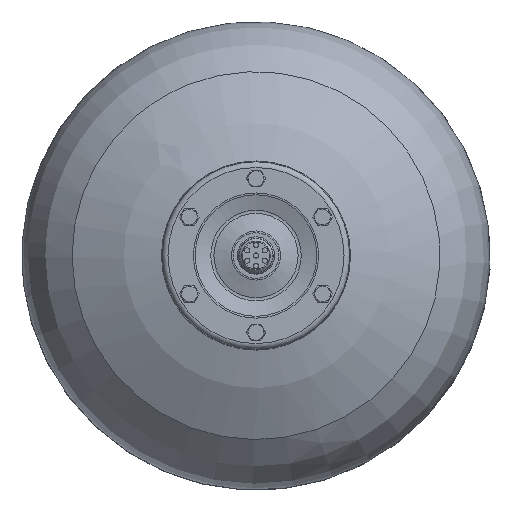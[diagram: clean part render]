
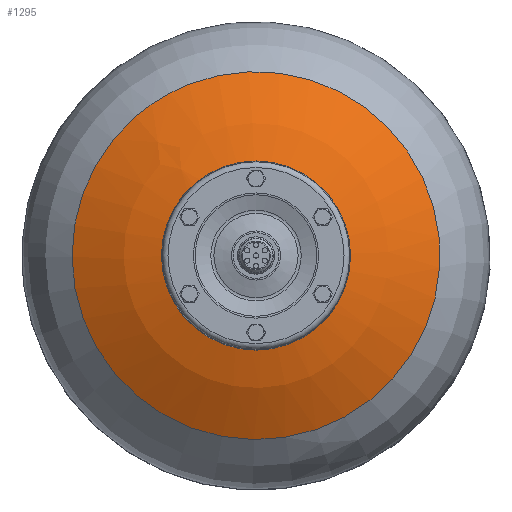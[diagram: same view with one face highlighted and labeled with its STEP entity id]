
A CAD part, top view. The second image highlights one B-rep face of the part: STEP entity #1295.
In plain terms, the highlighted spherical face has radius 280 mm.
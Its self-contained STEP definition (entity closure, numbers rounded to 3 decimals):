
#1295=ADVANCED_FACE('',(#2706,#2708),#2710,.T.);
#2706=FACE_BOUND('',#2707,.T.);
#2707=EDGE_LOOP('',(#3563,#3564,#3565));
#2708=FACE_BOUND('',#2709,.T.);
#2709=EDGE_LOOP('',(#3566,#3567,#3568));
#2710=SPHERICAL_SURFACE('',#2711,280.);
#2711=AXIS2_PLACEMENT_3D('',#2712,#2713,#2714);
#2712=CARTESIAN_POINT('',(0.,0.,-82.439));
#2713=DIRECTION('',(0.,0.,1.));
#2714=DIRECTION('',(1.,0.,0.));
#3563=ORIENTED_EDGE('',*,*,#4013,.T.);
#3564=ORIENTED_EDGE('',*,*,#4014,.T.);
#3565=ORIENTED_EDGE('',*,*,#4015,.T.);
#3566=ORIENTED_EDGE('',*,*,#4012,.F.);
#3567=ORIENTED_EDGE('',*,*,#4011,.F.);
#3568=ORIENTED_EDGE('',*,*,#4010,.F.);
#4010=EDGE_CURVE('',#4688,#4689,#4690,.T.);
#4011=EDGE_CURVE('',#4689,#4691,#4692,.T.);
#4012=EDGE_CURVE('',#4691,#4688,#4693,.T.);
#4013=EDGE_CURVE('',#4694,#4695,#4696,.T.);
#4014=EDGE_CURVE('',#4695,#4697,#4698,.T.);
#4015=EDGE_CURVE('',#4697,#4694,#4699,.T.);
#4688=VERTEX_POINT('',#7717);
#4689=VERTEX_POINT('',#7718);
#4690=CIRCLE('',#7719,143.5);
#4691=VERTEX_POINT('',#7723);
#4692=CIRCLE('',#7724,143.5);
#4693=CIRCLE('',#7728,143.5);
#4694=VERTEX_POINT('',#7732);
#4695=VERTEX_POINT('',#7733);
#4696=CIRCLE('',#7734,60.432);
#4697=VERTEX_POINT('',#7738);
#4698=CIRCLE('',#7739,60.432);
#4699=CIRCLE('',#7743,60.432);
#7717=CARTESIAN_POINT('',(46.931,-135.609,157.993));
#7718=CARTESIAN_POINT('',(-93.93,108.487,157.993));
#7719=AXIS2_PLACEMENT_3D('',#7720,#7721,#7722);
#7720=CARTESIAN_POINT('',(0.,0.,157.993));
#7721=DIRECTION('',(0.,0.,-1.));
#7722=DIRECTION('',(0.327,-0.945,0.));
#7723=CARTESIAN_POINT('',(-52.5,133.551,157.993));
#7724=AXIS2_PLACEMENT_3D('',#7725,#7726,#7727);
#7725=CARTESIAN_POINT('',(0.,0.,157.993));
#7726=DIRECTION('',(0.,0.,-1.));
#7727=DIRECTION('',(-0.655,0.756,0.));
#7728=AXIS2_PLACEMENT_3D('',#7729,#7730,#7731);
#7729=CARTESIAN_POINT('',(0.,0.,157.993));
#7730=DIRECTION('',(0.,0.,-1.));
#7731=DIRECTION('',(-0.366,0.931,0.));
#7732=CARTESIAN_POINT('',(52.827,-29.348,190.961));
#7733=CARTESIAN_POINT('',(-52.5,29.93,190.961));
#7734=AXIS2_PLACEMENT_3D('',#7735,#7736,#7737);
#7735=CARTESIAN_POINT('',(0.,0.,190.961));
#7736=DIRECTION('',(-0.,0.,-1.));
#7737=DIRECTION('',(0.874,-0.486,0.));
#7738=CARTESIAN_POINT('',(-39.557,45.687,190.961));
#7739=AXIS2_PLACEMENT_3D('',#7740,#7741,#7742);
#7740=CARTESIAN_POINT('',(0.,0.,190.961));
#7741=DIRECTION('',(-0.,0.,-1.));
#7742=DIRECTION('',(-0.869,0.495,0.));
#7743=AXIS2_PLACEMENT_3D('',#7744,#7745,#7746);
#7744=CARTESIAN_POINT('',(0.,0.,190.961));
#7745=DIRECTION('',(-0.,0.,-1.));
#7746=DIRECTION('',(-0.655,0.756,0.));
